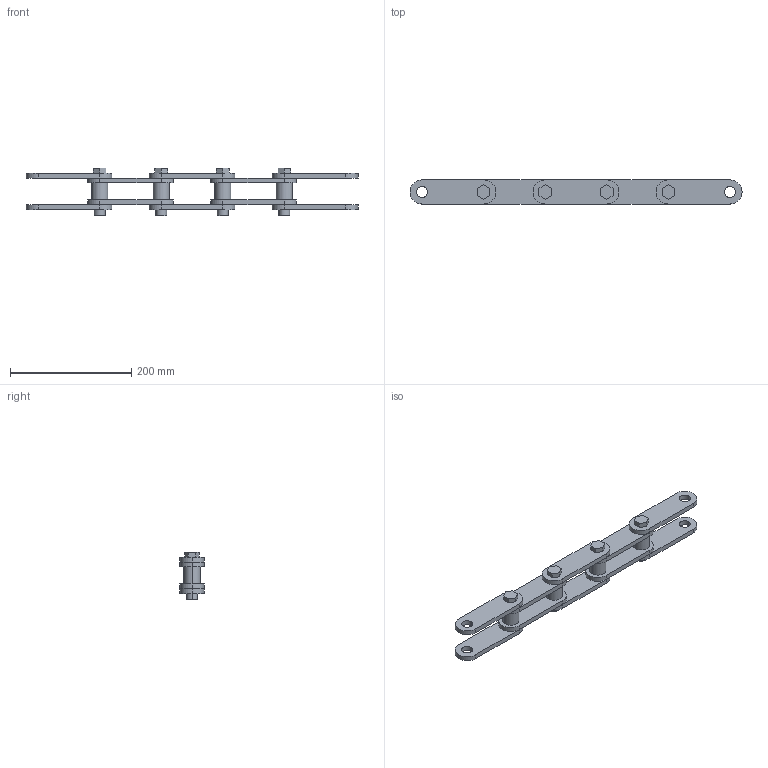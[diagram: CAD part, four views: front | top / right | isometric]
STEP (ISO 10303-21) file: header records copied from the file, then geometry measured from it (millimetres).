
FILE_DESCRIPTION (( 'STEP AP214' ), '1' );
FILE_NAME ('Assem3.STEP', '2018-04-22T04:25:58', ( '' ), ( '' ), 'SwSTEP 2.0', 'SolidWorks 2018', '' );
FILE_SCHEMA (( 'AUTOMOTIVE_DESIGN' ));
Length unit declared in the file: millimetre
Products named in the file (5): 18.5dia side; Assem3; bush; pin; 27dia side
Assembly tree (18 placements, depth 2):
  Assem3
    18.5dia side  x6
    27dia side  x4
    bush  x4
    pin  x4
Bounding box: 548 x 40 x 78 mm (x, y, z)
Volume: 490416 mm3; surface area: 177124.7 mm2
Topology: 18 solids, 18 shells, 178 faces, 414 edges, 276 vertices
Faces by surface type: cylinder 94, plane 84
Entity records: 1454 total; most frequent: DIRECTION 250, CARTESIAN_POINT 210, ORIENTED_EDGE 180, AXIS2_PLACEMENT_3D 100, EDGE_CURVE 90, VERTEX_POINT 60, LINE 50, EDGE_LOOP 50
